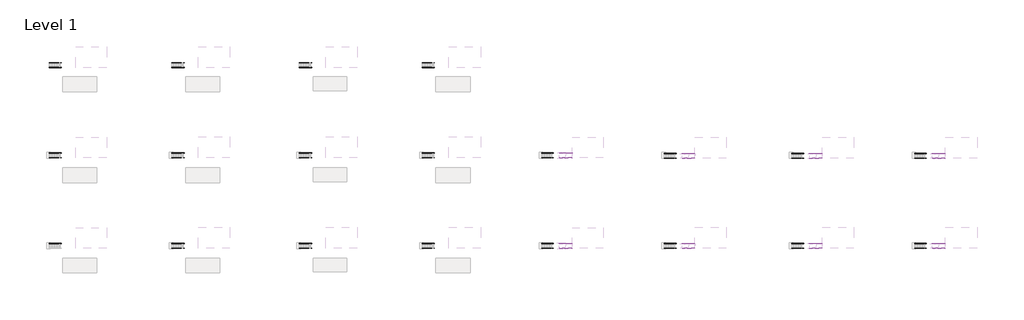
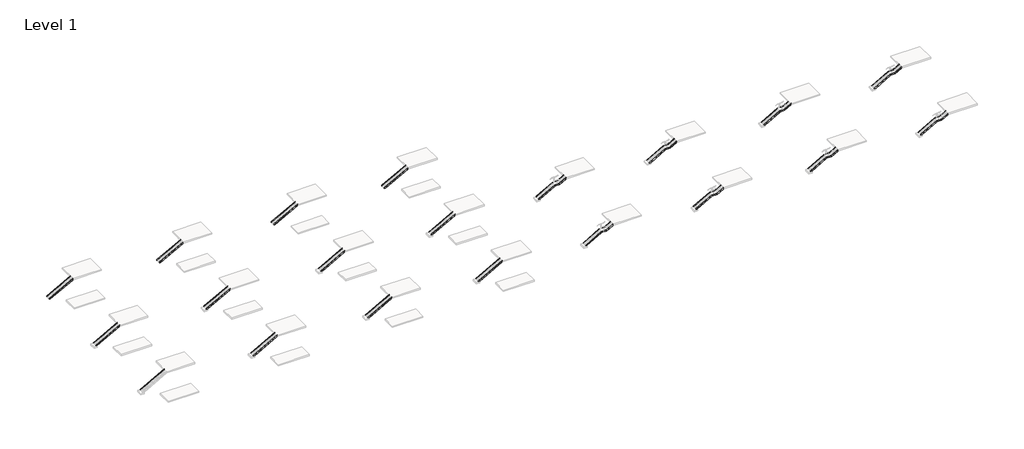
# One storey, part 26 of 26: 71 members.
"""IFC4 building model written with IfcOpenShell, lengths in millimetres."""

from ifc_helpers import new_model, si_unit, frame, origin, place, context, project, spatial, polyline, outline, extrude, element, save

model = new_model("IFC4")

# Units and contexts
model_context = context("Model", 3, world=origin())
ifc_project = project(units=[si_unit("LENGTHUNIT", "METRE", prefix="MILLI")], contexts=[model_context])

# Site, building, storey
site = spatial("IfcSite", under=ifc_project)
building = spatial("IfcBuilding", under=site)
storey = spatial("IfcBuildingStorey", under=building, Name="Level 1", Elevation=0.0)

# Members
placement = place(None, origin())
element("IfcMember", 1, ObjectType="Stringer - 2\" Width", at=placement, inside=storey, context=model_context, shape_type="SweptSolid", body=[
    extrude(outline(polyline([(177.1989729, -14498.2569957), (0.0, -14498.2569957), (0.0, -14213.1213612), (2753.9260175, -9164.2569957), (3086.6535184, -9164.2569957), (177.1989729, -14498.2569957)])), frame((0.0, 16760.4395941, 0.0), z_axis=(0.0, 1.0, 0.0), x_axis=(0.0, 0.0, 1.0)), (0.0, 0.0, 1.0), 50.8),
])
element("IfcMember", 2, ObjectType="Stringer - 2\" Width", at=placement, inside=storey, context=model_context, shape_type="SweptSolid", body=[
    extrude(outline(polyline([(177.1989729, 10178.7167764), (0.0, 10178.7167764), (0.0, 10463.8524109), (2753.9260175, 15512.7167764), (3086.6535184, 15512.7167764), (177.1989729, 10178.7167764)])), frame((0.0, 16760.4395941, 0.0), z_axis=(0.0, 1.0, 0.0), x_axis=(0.0, 0.0, 1.0)), (0.0, 0.0, 1.0), 50.8),
])
element("IfcMember", 3, ObjectType="Stringer - 2\" Width", at=placement, inside=storey, context=model_context, shape_type="SweptSolid", body=[
    extrude(outline(polyline([(177.1989729, 10178.7167764), (0.0, 10178.7167764), (0.0, 10463.8524109), (2753.9260175, 15512.7167764), (3086.6535184, 15512.7167764), (177.1989729, 10178.7167764)])), frame((0.0, 15795.2395941, 0.0), z_axis=(0.0, 1.0, 0.0), x_axis=(0.0, 0.0, 1.0)), (0.0, 0.0, 1.0), 50.8),
])
element("IfcMember", 4, ObjectType="Stringer - 2\" Width", at=placement, inside=storey, context=model_context, shape_type="SweptSolid", body=[
    extrude(outline(polyline([(177.1989729, 35781.9167764), (0.0, 35781.9167764), (0.0, 36067.0524109), (2753.9260175, 41115.9167764), (3086.6535184, 41115.9167764), (177.1989729, 35781.9167764)])), frame((0.0, 16760.4395941, 0.0), z_axis=(0.0, 1.0, 0.0), x_axis=(0.0, 0.0, 1.0)), (0.0, 0.0, 1.0), 50.8),
])
element("IfcMember", 5, ObjectType="Stringer - 2\" Width", at=placement, inside=storey, context=model_context, shape_type="SweptSolid", body=[
    extrude(outline(polyline([(177.1989729, 35781.9167764), (0.0, 35781.9167764), (0.0, 36067.0524109), (2753.9260175, 41115.9167764), (3086.6535184, 41115.9167764), (177.1989729, 35781.9167764)])), frame((0.0, 15795.2395941, 0.0), z_axis=(0.0, 1.0, 0.0), x_axis=(0.0, 0.0, 1.0)), (0.0, 0.0, 1.0), 50.8),
])
element("IfcMember", 6, ObjectType="Stringer - 2\" Width", at=placement, inside=storey, context=model_context, shape_type="SweptSolid", body=[
    extrude(outline(polyline([(177.1989729, 60458.8905484), (0.0, 60458.8905484), (0.0, 60744.026183), (2753.9260175, 65792.8905484), (3086.6535184, 65792.8905484), (177.1989729, 60458.8905484)])), frame((0.0, 16760.4395941, 0.0), z_axis=(0.0, 1.0, 0.0), x_axis=(0.0, 0.0, 1.0)), (0.0, 0.0, 1.0), 50.8),
])
element("IfcMember", 7, ObjectType="Stringer - 2\" Width", at=placement, inside=storey, context=model_context, shape_type="SweptSolid", body=[
    extrude(outline(polyline([(177.1989729, 60458.8905484), (0.0, 60458.8905484), (0.0, 60744.026183), (2753.9260175, 65792.8905484), (3086.6535184, 65792.8905484), (177.1989729, 60458.8905484)])), frame((0.0, 15795.2395941, 0.0), z_axis=(0.0, 1.0, 0.0), x_axis=(0.0, 0.0, 1.0)), (0.0, 0.0, 1.0), 50.8),
])
element("IfcMember", 8, ObjectType="Stringer - 2\" Width", at=placement, inside=storey, context=model_context, shape_type="SweptSolid", body=[
    extrude(outline(polyline([(177.1989729, -14498.2569957), (0.0, -14498.2569957), (0.0, -14213.1213612), (2753.9260175, -9164.2569957), (3086.6535184, -9164.2569957), (177.1989729, -14498.2569957)])), frame((0.0, 34921.4395941, 0.0), z_axis=(0.0, 1.0, 0.0), x_axis=(0.0, 0.0, 1.0)), (0.0, 0.0, 1.0), 50.8),
])
element("IfcMember", 9, ObjectType="Stringer - 2\" Width", at=placement, inside=storey, context=model_context, shape_type="SweptSolid", body=[
    extrude(outline(polyline([(177.1989729, -14498.2569957), (0.0, -14498.2569957), (0.0, -14213.1213612), (2753.9260175, -9164.2569957), (3086.6535184, -9164.2569957), (177.1989729, -14498.2569957)])), frame((0.0, 33956.2395941, 0.0), z_axis=(0.0, 1.0, 0.0), x_axis=(0.0, 0.0, 1.0)), (0.0, 0.0, 1.0), 50.8),
])
element("IfcMember", 10, ObjectType="Stringer - 2\" Width", at=placement, inside=storey, context=model_context, shape_type="SweptSolid", body=[
    extrude(outline(polyline([(177.1989729, 10178.7167764), (0.0, 10178.7167764), (0.0, 10463.8524109), (2753.9260175, 15512.7167764), (3086.6535184, 15512.7167764), (177.1989729, 10178.7167764)])), frame((0.0, 34921.4395941, 0.0), z_axis=(0.0, 1.0, 0.0), x_axis=(0.0, 0.0, 1.0)), (0.0, 0.0, 1.0), 50.8),
])
element("IfcMember", 11, ObjectType="Stringer - 2\" Width", at=placement, inside=storey, context=model_context, shape_type="SweptSolid", body=[
    extrude(outline(polyline([(177.1989729, 10178.7167764), (0.0, 10178.7167764), (0.0, 10463.8524109), (2753.9260175, 15512.7167764), (3086.6535184, 15512.7167764), (177.1989729, 10178.7167764)])), frame((0.0, 33956.2395941, 0.0), z_axis=(0.0, 1.0, 0.0), x_axis=(0.0, 0.0, 1.0)), (0.0, 0.0, 1.0), 50.8),
])
element("IfcMember", 12, ObjectType="Stringer - 2\" Width", at=placement, inside=storey, context=model_context, shape_type="SweptSolid", body=[
    extrude(outline(polyline([(177.1989729, 35781.9167764), (0.0, 35781.9167764), (0.0, 36067.0524109), (2753.9260175, 41115.9167764), (3086.6535184, 41115.9167764), (177.1989729, 35781.9167764)])), frame((0.0, 34921.4395941, 0.0), z_axis=(0.0, 1.0, 0.0), x_axis=(0.0, 0.0, 1.0)), (0.0, 0.0, 1.0), 50.8),
])
element("IfcMember", 13, ObjectType="Stringer - 2\" Width", at=placement, inside=storey, context=model_context, shape_type="SweptSolid", body=[
    extrude(outline(polyline([(177.1989729, 35781.9167764), (0.0, 35781.9167764), (0.0, 36067.0524109), (2753.9260175, 41115.9167764), (3086.6535184, 41115.9167764), (177.1989729, 35781.9167764)])), frame((0.0, 33956.2395941, 0.0), z_axis=(0.0, 1.0, 0.0), x_axis=(0.0, 0.0, 1.0)), (0.0, 0.0, 1.0), 50.8),
])
element("IfcMember", 14, ObjectType="Stringer - 2\" Width", at=placement, inside=storey, context=model_context, shape_type="SweptSolid", body=[
    extrude(outline(polyline([(177.1989729, 60458.8905484), (0.0, 60458.8905484), (0.0, 60744.026183), (2753.9260175, 65792.8905484), (3086.6535184, 65792.8905484), (177.1989729, 60458.8905484)])), frame((0.0, 34921.4395941, 0.0), z_axis=(0.0, 1.0, 0.0), x_axis=(0.0, 0.0, 1.0)), (0.0, 0.0, 1.0), 50.8),
])
element("IfcMember", 15, ObjectType="Stringer - 2\" Width", at=placement, inside=storey, context=model_context, shape_type="SweptSolid", body=[
    extrude(outline(polyline([(177.1989729, 60458.8905484), (0.0, 60458.8905484), (0.0, 60744.026183), (2753.9260175, 65792.8905484), (3086.6535184, 65792.8905484), (177.1989729, 60458.8905484)])), frame((0.0, 33956.2395941, 0.0), z_axis=(0.0, 1.0, 0.0), x_axis=(0.0, 0.0, 1.0)), (0.0, 0.0, 1.0), 50.8),
])
element("IfcMember", 16, ObjectType="Stringer - 2\" Width", at=placement, inside=storey, context=model_context, shape_type="SweptSolid", body=[
    extrude(outline(polyline([(177.1989729, -14498.2569957), (0.0, -14498.2569957), (0.0, -14213.1213612), (2753.9260175, -9164.2569957), (3086.6535184, -9164.2569957), (177.1989729, -14498.2569957)])), frame((0.0, 53091.0739583, 0.0), z_axis=(0.0, 1.0, 0.0), x_axis=(0.0, 0.0, 1.0)), (0.0, 0.0, 1.0), 50.8),
])
element("IfcMember", 17, ObjectType="Stringer - 2\" Width", at=placement, inside=storey, context=model_context, shape_type="SweptSolid", body=[
    extrude(outline(polyline([(177.1989729, -14498.2569957), (0.0, -14498.2569957), (0.0, -14213.1213612), (2753.9260175, -9164.2569957), (3086.6535184, -9164.2569957), (177.1989729, -14498.2569957)])), frame((0.0, 52125.8739583, 0.0), z_axis=(0.0, 1.0, 0.0), x_axis=(0.0, 0.0, 1.0)), (0.0, 0.0, 1.0), 50.8),
])
element("IfcMember", 18, ObjectType="Stringer - 2\" Width", at=placement, inside=storey, context=model_context, shape_type="SweptSolid", body=[
    extrude(outline(polyline([(177.1989729, 10178.7167764), (0.0, 10178.7167764), (0.0, 10463.8524109), (2753.9260175, 15512.7167764), (3086.6535184, 15512.7167764), (177.1989729, 10178.7167764)])), frame((0.0, 53091.0739583, 0.0), z_axis=(0.0, 1.0, 0.0), x_axis=(0.0, 0.0, 1.0)), (0.0, 0.0, 1.0), 50.8),
])
element("IfcMember", 19, ObjectType="Stringer - 2\" Width", at=placement, inside=storey, context=model_context, shape_type="SweptSolid", body=[
    extrude(outline(polyline([(177.1989729, 10178.7167764), (0.0, 10178.7167764), (0.0, 10463.8524109), (2753.9260175, 15512.7167764), (3086.6535184, 15512.7167764), (177.1989729, 10178.7167764)])), frame((0.0, 52125.8739583, 0.0), z_axis=(0.0, 1.0, 0.0), x_axis=(0.0, 0.0, 1.0)), (0.0, 0.0, 1.0), 50.8),
])
element("IfcMember", 20, ObjectType="Stringer - 2\" Width", at=placement, inside=storey, context=model_context, shape_type="SweptSolid", body=[
    extrude(outline(polyline([(177.1989729, 35781.9167764), (0.0, 35781.9167764), (0.0, 36067.0524109), (2753.9260175, 41115.9167764), (3086.6535184, 41115.9167764), (177.1989729, 35781.9167764)])), frame((0.0, 53091.0739583, 0.0), z_axis=(0.0, 1.0, 0.0), x_axis=(0.0, 0.0, 1.0)), (0.0, 0.0, 1.0), 50.8),
])
element("IfcMember", 21, ObjectType="Stringer - 2\" Width", at=placement, inside=storey, context=model_context, shape_type="SweptSolid", body=[
    extrude(outline(polyline([(177.1989729, 35781.9167764), (0.0, 35781.9167764), (0.0, 36067.0524109), (2753.9260175, 41115.9167764), (3086.6535184, 41115.9167764), (177.1989729, 35781.9167764)])), frame((0.0, 52125.8739583, 0.0), z_axis=(0.0, 1.0, 0.0), x_axis=(0.0, 0.0, 1.0)), (0.0, 0.0, 1.0), 50.8),
])
element("IfcMember", 22, ObjectType="Stringer - 2\" Width", at=placement, inside=storey, context=model_context, shape_type="SweptSolid", body=[
    extrude(outline(polyline([(177.1989729, 60458.8905484), (0.0, 60458.8905484), (0.0, 60744.026183), (2753.9260175, 65792.8905484), (3086.6535184, 65792.8905484), (177.1989729, 60458.8905484)])), frame((0.0, 53091.0739583, 0.0), z_axis=(0.0, 1.0, 0.0), x_axis=(0.0, 0.0, 1.0)), (0.0, 0.0, 1.0), 50.8),
])
element("IfcMember", 23, ObjectType="Stringer - 2\" Width", at=placement, inside=storey, context=model_context, shape_type="SweptSolid", body=[
    extrude(outline(polyline([(177.1989729, 60458.8905484), (0.0, 60458.8905484), (0.0, 60744.026183), (2753.9260175, 65792.8905484), (3086.6535184, 65792.8905484), (177.1989729, 60458.8905484)])), frame((0.0, 52125.8739583, 0.0), z_axis=(0.0, 1.0, 0.0), x_axis=(0.0, 0.0, 1.0)), (0.0, 0.0, 1.0), 50.8),
])
element("IfcMember", 24, ObjectType="Stringer - 2\" Width", at=placement, inside=storey, context=model_context, shape_type="SweptSolid", body=[
    extrude(outline(polyline([(179.6072535, 84469.1145262), (0.0, 84469.1145262), (0.0, 84743.5482046), (1916.7928571, 88097.9357046), (2208.8928571, 88020.3643326), (179.6072535, 84469.1145262)])), frame((0.0, 16760.4395941, 0.0), z_axis=(0.0, 1.0, 0.0), x_axis=(0.0, 0.0, 1.0)), (0.0, 0.0, 1.0), 50.8),
])
element("IfcMember", 25, ObjectType="Stringer - 2\" Width", at=placement, inside=storey, context=model_context, shape_type="SweptSolid", body=[
    extrude(outline(polyline([(179.6072535, 84469.1145262), (0.0, 84469.1145262), (0.0, 84743.5482046), (1916.7928571, 88097.9357046), (2208.8928571, 88020.3643326), (179.6072535, 84469.1145262)])), frame((0.0, 15795.2395941, 0.0), z_axis=(0.0, 1.0, 0.0), x_axis=(0.0, 0.0, 1.0)), (0.0, 0.0, 1.0), 50.8),
])
element("IfcMember", 26, ObjectType="Stringer - 2\" Width", at=placement, inside=storey, context=model_context, shape_type="SweptSolid", body=[
    extrude(outline(polyline([(2208.8928571, 89087.1643326), (1916.7928571, 89164.7357046), (2746.037898, 90615.9145262), (3048.0, 90615.9145262), (3048.0, 90555.6018326), (2208.8928571, 89087.1643326)])), frame((0.0, 16760.4395941, 0.0), z_axis=(0.0, 1.0, 0.0), x_axis=(0.0, 0.0, 1.0)), (0.0, 0.0, 1.0), 50.8),
])
element("IfcMember", 27, ObjectType="Stringer - 2\" Width", at=placement, inside=storey, context=model_context, shape_type="SweptSolid", body=[
    extrude(outline(polyline([(2208.8928571, 89087.1643326), (1916.7928571, 89164.7357046), (2746.037898, 90615.9145262), (3048.0, 90615.9145262), (3048.0, 90555.6018326), (2208.8928571, 89087.1643326)])), frame((0.0, 15795.2395941, 0.0), z_axis=(0.0, 1.0, 0.0), x_axis=(0.0, 0.0, 1.0)), (0.0, 0.0, 1.0), 50.8),
])
element("IfcMember", 28, ObjectType="Stringer - 2\" Width", at=placement, inside=storey, context=model_context, shape_type="SweptSolid", body=[
    extrude(outline(polyline([(1916.7928571, 89164.7357046), (2208.8928571, 89087.1643326), (2208.8928571, 88020.3643326), (1916.7928571, 88097.9357046), (1916.7928571, 89164.7357046)])), frame((0.0, 16760.4395941, 0.0), z_axis=(0.0, 1.0, 0.0), x_axis=(0.0, 0.0, 1.0)), (0.0, 0.0, 1.0), 50.8),
])
element("IfcMember", 29, ObjectType="Stringer - 2\" Width", at=placement, inside=storey, context=model_context, shape_type="SweptSolid", body=[
    extrude(outline(polyline([(2208.8928571, 88020.3643326), (1916.7928571, 88097.9357046), (1916.7928571, 89164.7357046), (2208.8928571, 89087.1643326), (2208.8928571, 88020.3643326)])), frame((0.0, 15795.2395941, 0.0), z_axis=(0.0, 1.0, 0.0), x_axis=(0.0, 0.0, 1.0)), (0.0, 0.0, 1.0), 50.8),
])
element("IfcMember", 30, ObjectType="Stringer - 2\" Width", at=placement, inside=storey, context=model_context, shape_type="SweptSolid", body=[
    extrude(outline(polyline([(179.6072535, 84469.1145262), (0.0, 84469.1145262), (0.0, 84743.5482046), (1916.7928571, 88097.9357046), (2208.8928571, 88020.3643326), (179.6072535, 84469.1145262)])), frame((0.0, 34921.4395941, 0.0), z_axis=(0.0, 1.0, 0.0), x_axis=(0.0, 0.0, 1.0)), (0.0, 0.0, 1.0), 50.8),
])
element("IfcMember", 31, ObjectType="Stringer - 2\" Width", at=placement, inside=storey, context=model_context, shape_type="SweptSolid", body=[
    extrude(outline(polyline([(179.6072535, 84469.1145262), (0.0, 84469.1145262), (0.0, 84743.5482046), (1916.7928571, 88097.9357046), (2208.8928571, 88020.3643326), (179.6072535, 84469.1145262)])), frame((0.0, 33956.2395941, 0.0), z_axis=(0.0, 1.0, 0.0), x_axis=(0.0, 0.0, 1.0)), (0.0, 0.0, 1.0), 50.8),
])
element("IfcMember", 32, ObjectType="Stringer - 2\" Width", at=placement, inside=storey, context=model_context, shape_type="SweptSolid", body=[
    extrude(outline(polyline([(2208.8928571, 89087.1643326), (1916.7928571, 89164.7357046), (2746.037898, 90615.9145262), (3048.0, 90615.9145262), (3048.0, 90555.6018326), (2208.8928571, 89087.1643326)])), frame((0.0, 34921.4395941, 0.0), z_axis=(0.0, 1.0, 0.0), x_axis=(0.0, 0.0, 1.0)), (0.0, 0.0, 1.0), 50.8),
])
element("IfcMember", 33, ObjectType="Stringer - 2\" Width", at=placement, inside=storey, context=model_context, shape_type="SweptSolid", body=[
    extrude(outline(polyline([(2208.8928571, 89087.1643326), (1916.7928571, 89164.7357046), (2746.037898, 90615.9145262), (3048.0, 90615.9145262), (3048.0, 90555.6018326), (2208.8928571, 89087.1643326)])), frame((0.0, 33956.2395941, 0.0), z_axis=(0.0, 1.0, 0.0), x_axis=(0.0, 0.0, 1.0)), (0.0, 0.0, 1.0), 50.8),
])
element("IfcMember", 34, ObjectType="Stringer - 2\" Width", at=placement, inside=storey, context=model_context, shape_type="SweptSolid", body=[
    extrude(outline(polyline([(1916.7928571, 89164.7357046), (2208.8928571, 89087.1643326), (2208.8928571, 88020.3643326), (1916.7928571, 88097.9357046), (1916.7928571, 89164.7357046)])), frame((0.0, 34921.4395941, 0.0), z_axis=(0.0, 1.0, 0.0), x_axis=(0.0, 0.0, 1.0)), (0.0, 0.0, 1.0), 50.8),
])
element("IfcMember", 35, ObjectType="Stringer - 2\" Width", at=placement, inside=storey, context=model_context, shape_type="SweptSolid", body=[
    extrude(outline(polyline([(2208.8928571, 88020.3643326), (1916.7928571, 88097.9357046), (1916.7928571, 89164.7357046), (2208.8928571, 89087.1643326), (2208.8928571, 88020.3643326)])), frame((0.0, 33956.2395941, 0.0), z_axis=(0.0, 1.0, 0.0), x_axis=(0.0, 0.0, 1.0)), (0.0, 0.0, 1.0), 50.8),
])
element("IfcMember", 36, ObjectType="Stringer - 2\" Width", at=placement, inside=storey, context=model_context, shape_type="SweptSolid", body=[
    extrude(outline(polyline([(179.6072535, 109146.0882982), (0.0, 109146.0882982), (0.0, 109420.5219767), (1916.7928571, 112774.9094767), (2208.8928571, 112697.3381046), (179.6072535, 109146.0882982)])), frame((0.0, 16760.4395941, 0.0), z_axis=(0.0, 1.0, 0.0), x_axis=(0.0, 0.0, 1.0)), (0.0, 0.0, 1.0), 50.8),
])
element("IfcMember", 37, ObjectType="Stringer - 2\" Width", at=placement, inside=storey, context=model_context, shape_type="SweptSolid", body=[
    extrude(outline(polyline([(179.6072535, 109146.0882982), (0.0, 109146.0882982), (0.0, 109420.5219767), (1916.7928571, 112774.9094767), (2208.8928571, 112697.3381046), (179.6072535, 109146.0882982)])), frame((0.0, 15795.2395941, 0.0), z_axis=(0.0, 1.0, 0.0), x_axis=(0.0, 0.0, 1.0)), (0.0, 0.0, 1.0), 50.8),
])
element("IfcMember", 38, ObjectType="Stringer - 2\" Width", at=placement, inside=storey, context=model_context, shape_type="SweptSolid", body=[
    extrude(outline(polyline([(2208.8928571, 113764.1381046), (1916.7928571, 113841.7094767), (2746.037898, 115292.8882982), (3048.0, 115292.8882982), (3048.0, 115232.5756046), (2208.8928571, 113764.1381046)])), frame((0.0, 16760.4395941, 0.0), z_axis=(0.0, 1.0, 0.0), x_axis=(0.0, 0.0, 1.0)), (0.0, 0.0, 1.0), 50.8),
])
element("IfcMember", 39, ObjectType="Stringer - 2\" Width", at=placement, inside=storey, context=model_context, shape_type="SweptSolid", body=[
    extrude(outline(polyline([(2208.8928571, 113764.1381046), (1916.7928571, 113841.7094767), (2746.037898, 115292.8882982), (3048.0, 115292.8882982), (3048.0, 115232.5756046), (2208.8928571, 113764.1381046)])), frame((0.0, 15795.2395941, 0.0), z_axis=(0.0, 1.0, 0.0), x_axis=(0.0, 0.0, 1.0)), (0.0, 0.0, 1.0), 50.8),
])
element("IfcMember", 40, ObjectType="Stringer - 2\" Width", at=placement, inside=storey, context=model_context, shape_type="SweptSolid", body=[
    extrude(outline(polyline([(1916.7928571, 113841.7094767), (2208.8928571, 113764.1381046), (2208.8928571, 112697.3381046), (1916.7928571, 112774.9094767), (1916.7928571, 113841.7094767)])), frame((0.0, 16760.4395941, 0.0), z_axis=(0.0, 1.0, 0.0), x_axis=(0.0, 0.0, 1.0)), (0.0, 0.0, 1.0), 50.8),
])
element("IfcMember", 41, ObjectType="Stringer - 2\" Width", at=placement, inside=storey, context=model_context, shape_type="SweptSolid", body=[
    extrude(outline(polyline([(2208.8928571, 112697.3381046), (1916.7928571, 112774.9094767), (1916.7928571, 113841.7094767), (2208.8928571, 113764.1381046), (2208.8928571, 112697.3381046)])), frame((0.0, 15795.2395941, 0.0), z_axis=(0.0, 1.0, 0.0), x_axis=(0.0, 0.0, 1.0)), (0.0, 0.0, 1.0), 50.8),
])
element("IfcMember", 42, ObjectType="Stringer - 2\" Width", at=placement, inside=storey, context=model_context, shape_type="SweptSolid", body=[
    extrude(outline(polyline([(179.6072535, 109146.0882982), (0.0, 109146.0882982), (0.0, 109420.5219767), (1916.7928571, 112774.9094767), (2208.8928571, 112697.3381046), (179.6072535, 109146.0882982)])), frame((0.0, 34841.5265585, 0.0), z_axis=(0.0, 1.0, 0.0), x_axis=(0.0, 0.0, 1.0)), (0.0, 0.0, 1.0), 50.8),
])
element("IfcMember", 43, ObjectType="Stringer - 2\" Width", at=placement, inside=storey, context=model_context, shape_type="SweptSolid", body=[
    extrude(outline(polyline([(179.6072535, 109146.0882982), (0.0, 109146.0882982), (0.0, 109420.5219767), (1916.7928571, 112774.9094767), (2208.8928571, 112697.3381046), (179.6072535, 109146.0882982)])), frame((0.0, 33876.3265585, 0.0), z_axis=(0.0, 1.0, 0.0), x_axis=(0.0, 0.0, 1.0)), (0.0, 0.0, 1.0), 50.8),
])
element("IfcMember", 44, ObjectType="Stringer - 2\" Width", at=placement, inside=storey, context=model_context, shape_type="SweptSolid", body=[
    extrude(outline(polyline([(2208.8928571, 113764.1381046), (1916.7928571, 113841.7094767), (2746.037898, 115292.8882982), (3048.0, 115292.8882982), (3048.0, 115232.5756046), (2208.8928571, 113764.1381046)])), frame((0.0, 34841.5265585, 0.0), z_axis=(0.0, 1.0, 0.0), x_axis=(0.0, 0.0, 1.0)), (0.0, 0.0, 1.0), 50.8),
])
element("IfcMember", 45, ObjectType="Stringer - 2\" Width", at=placement, inside=storey, context=model_context, shape_type="SweptSolid", body=[
    extrude(outline(polyline([(2208.8928571, 113764.1381046), (1916.7928571, 113841.7094767), (2746.037898, 115292.8882982), (3048.0, 115292.8882982), (3048.0, 115232.5756046), (2208.8928571, 113764.1381046)])), frame((0.0, 33876.3265585, 0.0), z_axis=(0.0, 1.0, 0.0), x_axis=(0.0, 0.0, 1.0)), (0.0, 0.0, 1.0), 50.8),
])
element("IfcMember", 46, ObjectType="Stringer - 2\" Width", at=placement, inside=storey, context=model_context, shape_type="SweptSolid", body=[
    extrude(outline(polyline([(1916.7928571, 113841.7094767), (2208.8928571, 113764.1381046), (2208.8928571, 112697.3381046), (1916.7928571, 112774.9094767), (1916.7928571, 113841.7094767)])), frame((0.0, 34841.5265585, 0.0), z_axis=(0.0, 1.0, 0.0), x_axis=(0.0, 0.0, 1.0)), (0.0, 0.0, 1.0), 50.8),
])
element("IfcMember", 47, ObjectType="Stringer - 2\" Width", at=placement, inside=storey, context=model_context, shape_type="SweptSolid", body=[
    extrude(outline(polyline([(2208.8928571, 112697.3381046), (1916.7928571, 112774.9094767), (1916.7928571, 113841.7094767), (2208.8928571, 113764.1381046), (2208.8928571, 112697.3381046)])), frame((0.0, 33876.3265585, 0.0), z_axis=(0.0, 1.0, 0.0), x_axis=(0.0, 0.0, 1.0)), (0.0, 0.0, 1.0), 50.8),
])
element("IfcMember", 48, ObjectType="Stringer - 2\" Width", at=placement, inside=storey, context=model_context, shape_type="SweptSolid", body=[
    extrude(outline(polyline([(179.6072535, 134749.2882982), (0.0, 134749.2882982), (0.0, 135023.7219767), (1916.7928571, 138378.1094767), (2208.8928571, 138300.5381046), (179.6072535, 134749.2882982)])), frame((0.0, 16760.4395941, 0.0), z_axis=(0.0, 1.0, 0.0), x_axis=(0.0, 0.0, 1.0)), (0.0, 0.0, 1.0), 50.8),
])
element("IfcMember", 49, ObjectType="Stringer - 2\" Width", at=placement, inside=storey, context=model_context, shape_type="SweptSolid", body=[
    extrude(outline(polyline([(179.6072535, 134749.2882982), (0.0, 134749.2882982), (0.0, 135023.7219767), (1916.7928571, 138378.1094767), (2208.8928571, 138300.5381046), (179.6072535, 134749.2882982)])), frame((0.0, 15795.2395941, 0.0), z_axis=(0.0, 1.0, 0.0), x_axis=(0.0, 0.0, 1.0)), (0.0, 0.0, 1.0), 50.8),
])
element("IfcMember", 50, ObjectType="Stringer - 2\" Width", at=placement, inside=storey, context=model_context, shape_type="SweptSolid", body=[
    extrude(outline(polyline([(2208.8928571, 139367.3381046), (1916.7928571, 139444.9094767), (2746.037898, 140896.0882982), (3048.0, 140896.0882982), (3048.0, 140835.7756046), (2208.8928571, 139367.3381046)])), frame((0.0, 16760.4395941, 0.0), z_axis=(0.0, 1.0, 0.0), x_axis=(0.0, 0.0, 1.0)), (0.0, 0.0, 1.0), 50.8),
])
element("IfcMember", 51, ObjectType="Stringer - 2\" Width", at=placement, inside=storey, context=model_context, shape_type="SweptSolid", body=[
    extrude(outline(polyline([(2208.8928571, 139367.3381046), (1916.7928571, 139444.9094767), (2746.037898, 140896.0882982), (3048.0, 140896.0882982), (3048.0, 140835.7756046), (2208.8928571, 139367.3381046)])), frame((0.0, 15795.2395941, 0.0), z_axis=(0.0, 1.0, 0.0), x_axis=(0.0, 0.0, 1.0)), (0.0, 0.0, 1.0), 50.8),
])
element("IfcMember", 52, ObjectType="Stringer - 2\" Width", at=placement, inside=storey, context=model_context, shape_type="SweptSolid", body=[
    extrude(outline(polyline([(1916.7928571, 139444.9094767), (2208.8928571, 139367.3381046), (2208.8928571, 138300.5381046), (1916.7928571, 138378.1094767), (1916.7928571, 139444.9094767)])), frame((0.0, 16760.4395941, 0.0), z_axis=(0.0, 1.0, 0.0), x_axis=(0.0, 0.0, 1.0)), (0.0, 0.0, 1.0), 50.8),
])
element("IfcMember", 53, ObjectType="Stringer - 2\" Width", at=placement, inside=storey, context=model_context, shape_type="SweptSolid", body=[
    extrude(outline(polyline([(2208.8928571, 138300.5381046), (1916.7928571, 138378.1094767), (1916.7928571, 139444.9094767), (2208.8928571, 139367.3381046), (2208.8928571, 138300.5381046)])), frame((0.0, 15795.2395941, 0.0), z_axis=(0.0, 1.0, 0.0), x_axis=(0.0, 0.0, 1.0)), (0.0, 0.0, 1.0), 50.8),
])
element("IfcMember", 54, ObjectType="Stringer - 2\" Width", at=placement, inside=storey, context=model_context, shape_type="SweptSolid", body=[
    extrude(outline(polyline([(179.6072535, 134749.2882982), (0.0, 134749.2882982), (0.0, 135023.7219767), (1916.7928571, 138378.1094767), (2208.8928571, 138300.5381046), (179.6072535, 134749.2882982)])), frame((0.0, 34841.5265585, 0.0), z_axis=(0.0, 1.0, 0.0), x_axis=(0.0, 0.0, 1.0)), (0.0, 0.0, 1.0), 50.8),
])
element("IfcMember", 55, ObjectType="Stringer - 2\" Width", at=placement, inside=storey, context=model_context, shape_type="SweptSolid", body=[
    extrude(outline(polyline([(179.6072535, 134749.2882982), (0.0, 134749.2882982), (0.0, 135023.7219767), (1916.7928571, 138378.1094767), (2208.8928571, 138300.5381046), (179.6072535, 134749.2882982)])), frame((0.0, 33876.3265585, 0.0), z_axis=(0.0, 1.0, 0.0), x_axis=(0.0, 0.0, 1.0)), (0.0, 0.0, 1.0), 50.8),
])
element("IfcMember", 56, ObjectType="Stringer - 2\" Width", at=placement, inside=storey, context=model_context, shape_type="SweptSolid", body=[
    extrude(outline(polyline([(2208.8928571, 139367.3381046), (1916.7928571, 139444.9094767), (2746.037898, 140896.0882982), (3048.0, 140896.0882982), (3048.0, 140835.7756046), (2208.8928571, 139367.3381046)])), frame((0.0, 34841.5265585, 0.0), z_axis=(0.0, 1.0, 0.0), x_axis=(0.0, 0.0, 1.0)), (0.0, 0.0, 1.0), 50.8),
])
element("IfcMember", 57, ObjectType="Stringer - 2\" Width", at=placement, inside=storey, context=model_context, shape_type="SweptSolid", body=[
    extrude(outline(polyline([(2208.8928571, 139367.3381046), (1916.7928571, 139444.9094767), (2746.037898, 140896.0882982), (3048.0, 140896.0882982), (3048.0, 140835.7756046), (2208.8928571, 139367.3381046)])), frame((0.0, 33876.3265585, 0.0), z_axis=(0.0, 1.0, 0.0), x_axis=(0.0, 0.0, 1.0)), (0.0, 0.0, 1.0), 50.8),
])
element("IfcMember", 58, ObjectType="Stringer - 2\" Width", at=placement, inside=storey, context=model_context, shape_type="SweptSolid", body=[
    extrude(outline(polyline([(1916.7928571, 139444.9094767), (2208.8928571, 139367.3381046), (2208.8928571, 138300.5381046), (1916.7928571, 138378.1094767), (1916.7928571, 139444.9094767)])), frame((0.0, 34841.5265585, 0.0), z_axis=(0.0, 1.0, 0.0), x_axis=(0.0, 0.0, 1.0)), (0.0, 0.0, 1.0), 50.8),
])
element("IfcMember", 59, ObjectType="Stringer - 2\" Width", at=placement, inside=storey, context=model_context, shape_type="SweptSolid", body=[
    extrude(outline(polyline([(2208.8928571, 138300.5381046), (1916.7928571, 138378.1094767), (1916.7928571, 139444.9094767), (2208.8928571, 139367.3381046), (2208.8928571, 138300.5381046)])), frame((0.0, 33876.3265585, 0.0), z_axis=(0.0, 1.0, 0.0), x_axis=(0.0, 0.0, 1.0)), (0.0, 0.0, 1.0), 50.8),
])
element("IfcMember", 60, ObjectType="Stringer - 2\" Width", at=placement, inside=storey, context=model_context, shape_type="SweptSolid", body=[
    extrude(outline(polyline([(179.6072535, 159426.2620703), (0.0, 159426.2620703), (0.0, 159700.6957488), (1916.7928571, 163055.0832488), (2208.8928571, 162977.5118767), (179.6072535, 159426.2620703)])), frame((0.0, 16760.4395941, 0.0), z_axis=(0.0, 1.0, 0.0), x_axis=(0.0, 0.0, 1.0)), (0.0, 0.0, 1.0), 50.8),
])
element("IfcMember", 61, ObjectType="Stringer - 2\" Width", at=placement, inside=storey, context=model_context, shape_type="SweptSolid", body=[
    extrude(outline(polyline([(179.6072535, 159426.2620703), (0.0, 159426.2620703), (0.0, 159700.6957488), (1916.7928571, 163055.0832488), (2208.8928571, 162977.5118767), (179.6072535, 159426.2620703)])), frame((0.0, 15795.2395941, 0.0), z_axis=(0.0, 1.0, 0.0), x_axis=(0.0, 0.0, 1.0)), (0.0, 0.0, 1.0), 50.8),
])
element("IfcMember", 62, ObjectType="Stringer - 2\" Width", at=placement, inside=storey, context=model_context, shape_type="SweptSolid", body=[
    extrude(outline(polyline([(2208.8928571, 164044.3118767), (1916.7928571, 164121.8832488), (2746.037898, 165573.0620703), (3048.0, 165573.0620703), (3048.0, 165512.7493767), (2208.8928571, 164044.3118767)])), frame((0.0, 16760.4395941, 0.0), z_axis=(0.0, 1.0, 0.0), x_axis=(0.0, 0.0, 1.0)), (0.0, 0.0, 1.0), 50.8),
])
element("IfcMember", 63, ObjectType="Stringer - 2\" Width", at=placement, inside=storey, context=model_context, shape_type="SweptSolid", body=[
    extrude(outline(polyline([(2208.8928571, 164044.3118767), (1916.7928571, 164121.8832488), (2746.037898, 165573.0620703), (3048.0, 165573.0620703), (3048.0, 165512.7493767), (2208.8928571, 164044.3118767)])), frame((0.0, 15795.2395941, 0.0), z_axis=(0.0, 1.0, 0.0), x_axis=(0.0, 0.0, 1.0)), (0.0, 0.0, 1.0), 50.8),
])
element("IfcMember", 64, ObjectType="Stringer - 2\" Width", at=placement, inside=storey, context=model_context, shape_type="SweptSolid", body=[
    extrude(outline(polyline([(1916.7928571, 164121.8832488), (2208.8928571, 164044.3118767), (2208.8928571, 162977.5118767), (1916.7928571, 163055.0832488), (1916.7928571, 164121.8832488)])), frame((0.0, 16760.4395941, 0.0), z_axis=(0.0, 1.0, 0.0), x_axis=(0.0, 0.0, 1.0)), (0.0, 0.0, 1.0), 50.8),
])
element("IfcMember", 65, ObjectType="Stringer - 2\" Width", at=placement, inside=storey, context=model_context, shape_type="SweptSolid", body=[
    extrude(outline(polyline([(2208.8928571, 162977.5118767), (1916.7928571, 163055.0832488), (1916.7928571, 164121.8832488), (2208.8928571, 164044.3118767), (2208.8928571, 162977.5118767)])), frame((0.0, 15795.2395941, 0.0), z_axis=(0.0, 1.0, 0.0), x_axis=(0.0, 0.0, 1.0)), (0.0, 0.0, 1.0), 50.8),
])
element("IfcMember", 66, ObjectType="Stringer - 2\" Width", at=placement, inside=storey, context=model_context, shape_type="SweptSolid", body=[
    extrude(outline(polyline([(179.6072535, 159426.2620703), (0.0, 159426.2620703), (0.0, 159700.6957488), (1916.7928571, 163055.0832488), (2208.8928571, 162977.5118767), (179.6072535, 159426.2620703)])), frame((0.0, 34841.5265585, 0.0), z_axis=(0.0, 1.0, 0.0), x_axis=(0.0, 0.0, 1.0)), (0.0, 0.0, 1.0), 50.8),
])
element("IfcMember", 67, ObjectType="Stringer - 2\" Width", at=placement, inside=storey, context=model_context, shape_type="SweptSolid", body=[
    extrude(outline(polyline([(179.6072535, 159426.2620703), (0.0, 159426.2620703), (0.0, 159700.6957488), (1916.7928571, 163055.0832488), (2208.8928571, 162977.5118767), (179.6072535, 159426.2620703)])), frame((0.0, 33876.3265585, 0.0), z_axis=(0.0, 1.0, 0.0), x_axis=(0.0, 0.0, 1.0)), (0.0, 0.0, 1.0), 50.8),
])
element("IfcMember", 68, ObjectType="Stringer - 2\" Width", at=placement, inside=storey, context=model_context, shape_type="SweptSolid", body=[
    extrude(outline(polyline([(2208.8928571, 164044.3118767), (1916.7928571, 164121.8832488), (2746.037898, 165573.0620703), (3048.0, 165573.0620703), (3048.0, 165512.7493767), (2208.8928571, 164044.3118767)])), frame((0.0, 34841.5265585, 0.0), z_axis=(0.0, 1.0, 0.0), x_axis=(0.0, 0.0, 1.0)), (0.0, 0.0, 1.0), 50.8),
])
element("IfcMember", 69, ObjectType="Stringer - 2\" Width", at=placement, inside=storey, context=model_context, shape_type="SweptSolid", body=[
    extrude(outline(polyline([(2208.8928571, 164044.3118767), (1916.7928571, 164121.8832488), (2746.037898, 165573.0620703), (3048.0, 165573.0620703), (3048.0, 165512.7493767), (2208.8928571, 164044.3118767)])), frame((0.0, 33876.3265585, 0.0), z_axis=(0.0, 1.0, 0.0), x_axis=(0.0, 0.0, 1.0)), (0.0, 0.0, 1.0), 50.8),
])
element("IfcMember", 70, ObjectType="Stringer - 2\" Width", at=placement, inside=storey, context=model_context, shape_type="SweptSolid", body=[
    extrude(outline(polyline([(1916.7928571, 164121.8832488), (2208.8928571, 164044.3118767), (2208.8928571, 162977.5118767), (1916.7928571, 163055.0832488), (1916.7928571, 164121.8832488)])), frame((0.0, 34841.5265585, 0.0), z_axis=(0.0, 1.0, 0.0), x_axis=(0.0, 0.0, 1.0)), (0.0, 0.0, 1.0), 50.8),
])
element("IfcMember", 71, ObjectType="Stringer - 2\" Width", at=placement, inside=storey, context=model_context, shape_type="SweptSolid", body=[
    extrude(outline(polyline([(2208.8928571, 162977.5118767), (1916.7928571, 163055.0832488), (1916.7928571, 164121.8832488), (2208.8928571, 164044.3118767), (2208.8928571, 162977.5118767)])), frame((0.0, 33876.3265585, 0.0), z_axis=(0.0, 1.0, 0.0), x_axis=(0.0, 0.0, 1.0)), (0.0, 0.0, 1.0), 50.8),
])

save(model, "model.ifc")
